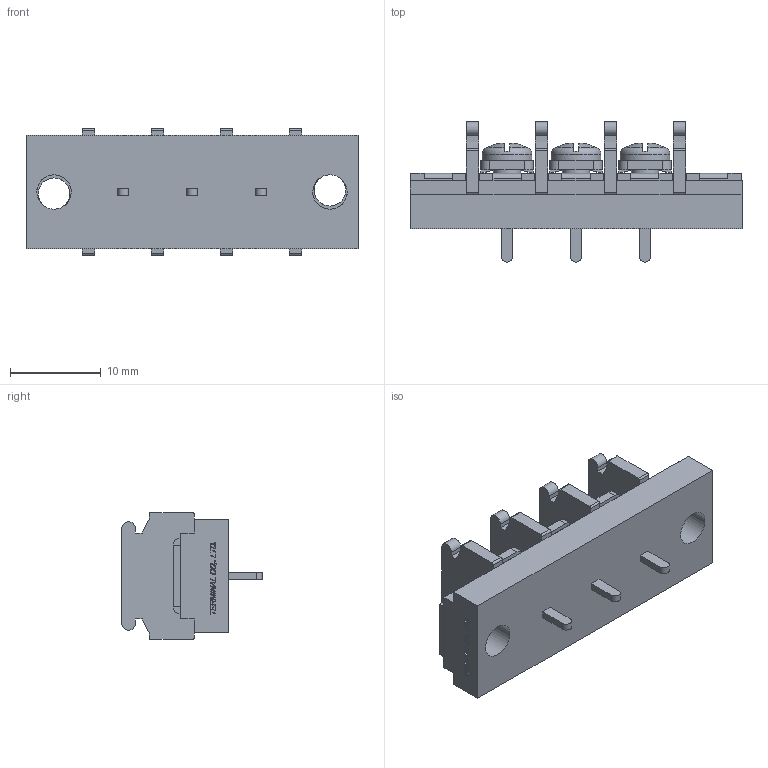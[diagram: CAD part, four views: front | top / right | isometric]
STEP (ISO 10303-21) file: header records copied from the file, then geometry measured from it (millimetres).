
FILE_DESCRIPTION(/* description */ ('Alibre Inc.'),/* implementation_level */ '2;1');
FILE_NAME(/* name */ 'export0',/* time_stamp */ '2015-10-23T19:16:55+09:00',/* author */ (''),/* organization */ (''),/* preprocessor_version */ 'ST-DEVELOPER v14',/* originating_system */ 'Alibre',/* authorisation */ '');
FILE_SCHEMA (('CONFIG_CONTROL_DESIGN'));
Length unit declared in the file: centimetre
Products named in the file (1): ID_1
Bounding box: 36.68 x 15.5 x 14 mm (x, y, z)
Volume: 3063.2 mm3; surface area: 2980 mm2
Topology: 1 solids, 1 shells, 776 faces, 2110 edges, 1390 vertices
Faces by surface type: plane 589, bspline 104, cylinder 59, cone 12, torus 6, sphere 6
Full cylindrical faces by diameter (mm): 3 x3, 3.5 x2, 3.8 x2, 5.5 x3
Entity records: 23405 total; most frequent: CARTESIAN_POINT 5285, ORIENTED_EDGE 4168, DIRECTION 2726, EDGE_CURVE 2084, VECTOR 1574, LINE 1574, VERTEX_POINT 1380, AXIS2_PLACEMENT_3D 855
